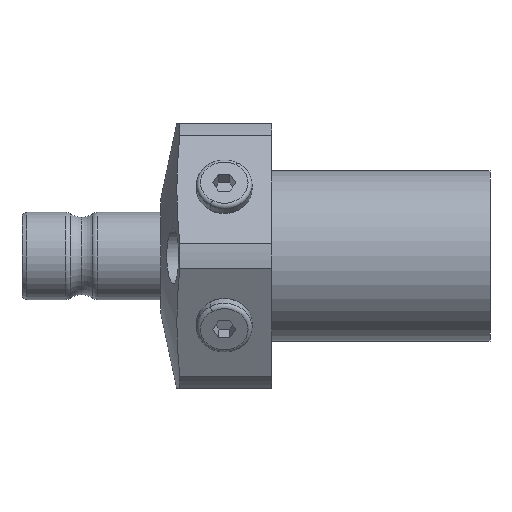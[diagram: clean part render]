
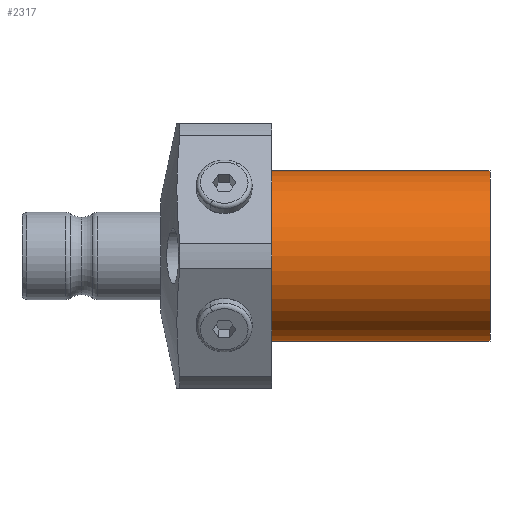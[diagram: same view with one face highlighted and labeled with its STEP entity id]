
A CAD part, left-side view. The second image highlights one B-rep face of the part: STEP entity #2317.
In plain terms, the highlighted cylindrical face has radius 21.5 mm (diameter 43 mm), a partial arc.
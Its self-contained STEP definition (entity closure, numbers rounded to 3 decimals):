
#83 = VECTOR ( 'NONE', #3674, 1000. ) ;
#109 = LINE ( 'NONE', #3801, #837 ) ;
#247 = VERTEX_POINT ( 'NONE', #1792 ) ;
#318 = DIRECTION ( 'NONE',  ( 0., -1., 0. ) ) ;
#381 = EDGE_LOOP ( 'NONE', ( #2869, #1858, #1295, #2123 ) ) ;
#525 = CARTESIAN_POINT ( 'NONE',  ( 0., 55., -21.5 ) ) ;
#598 = CARTESIAN_POINT ( 'NONE',  ( 0., 0., 21.5 ) ) ;
#692 = VERTEX_POINT ( 'NONE', #3745 ) ;
#718 = FACE_OUTER_BOUND ( 'NONE', #381, .T. ) ;
#791 = DIRECTION ( 'NONE',  ( 0., -1., 0. ) ) ;
#837 = VECTOR ( 'NONE', #791, 1000. ) ;
#845 = CARTESIAN_POINT ( 'NONE',  ( 0., 0., 0. ) ) ;
#1035 = EDGE_CURVE ( 'NONE', #3772, #247, #109, .T. ) ;
#1158 = DIRECTION ( 'NONE',  ( 0., 0., -1. ) ) ;
#1261 = AXIS2_PLACEMENT_3D ( 'NONE', #3088, #1576, #1287 ) ;
#1287 = DIRECTION ( 'NONE',  ( 0., 0., -1. ) ) ;
#1295 = ORIENTED_EDGE ( 'NONE', *, *, #1035, .T. ) ;
#1313 = CARTESIAN_POINT ( 'NONE',  ( 0., 55., 21.5 ) ) ;
#1429 = AXIS2_PLACEMENT_3D ( 'NONE', #2127, #318, #2421 ) ;
#1576 = DIRECTION ( 'NONE',  ( 0., -1., 0. ) ) ;
#1605 = EDGE_CURVE ( 'NONE', #2363, #692, #2414, .T. ) ;
#1792 = CARTESIAN_POINT ( 'NONE',  ( 0., 0., -21.5 ) ) ;
#1820 = CIRCLE ( 'NONE', #1429, 21.5 ) ;
#1858 = ORIENTED_EDGE ( 'NONE', *, *, #2163, .T. ) ;
#2123 = ORIENTED_EDGE ( 'NONE', *, *, #3262, .F. ) ;
#2127 = CARTESIAN_POINT ( 'NONE',  ( 0., 55., 0. ) ) ;
#2163 = EDGE_CURVE ( 'NONE', #2363, #3772, #1820, .T. ) ;
#2179 = AXIS2_PLACEMENT_3D ( 'NONE', #845, #2972, #1158 ) ;
#2229 = CYLINDRICAL_SURFACE ( 'NONE', #1261, 21.5 ) ;
#2317 = ADVANCED_FACE ( 'NONE', ( #718 ), #2229, .T. ) ;
#2363 = VERTEX_POINT ( 'NONE', #1313 ) ;
#2414 = LINE ( 'NONE', #598, #83 ) ;
#2421 = DIRECTION ( 'NONE',  ( 0., 0., -1. ) ) ;
#2570 = CIRCLE ( 'NONE', #2179, 21.5 ) ;
#2869 = ORIENTED_EDGE ( 'NONE', *, *, #1605, .F. ) ;
#2972 = DIRECTION ( 'NONE',  ( 0., -1., 0. ) ) ;
#3088 = CARTESIAN_POINT ( 'NONE',  ( 0., 0., 0. ) ) ;
#3262 = EDGE_CURVE ( 'NONE', #692, #247, #2570, .T. ) ;
#3674 = DIRECTION ( 'NONE',  ( 0., -1., 0. ) ) ;
#3745 = CARTESIAN_POINT ( 'NONE',  ( 0., 0., 21.5 ) ) ;
#3772 = VERTEX_POINT ( 'NONE', #525 ) ;
#3801 = CARTESIAN_POINT ( 'NONE',  ( 0., 0., -21.5 ) ) ;
